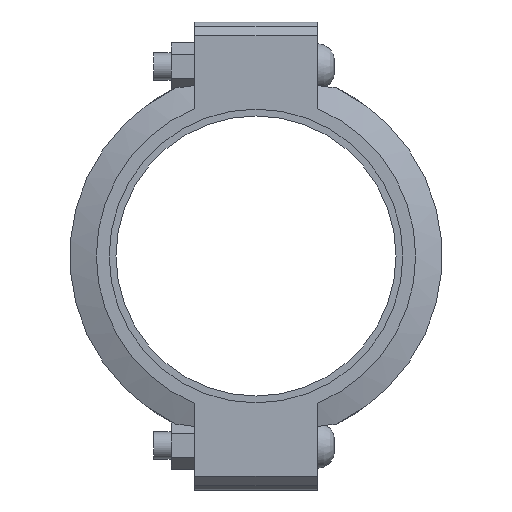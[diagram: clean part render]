
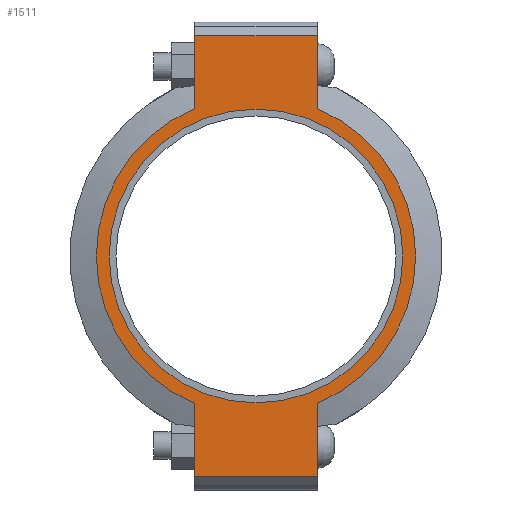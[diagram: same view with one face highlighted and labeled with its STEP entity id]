
A CAD part, left-side view. The second image highlights one B-rep face of the part: STEP entity #1511.
In plain terms, the highlighted planar face has unit normal (-1, 0, 0) as drawn and (0, 0, 1) by its records, which use the part's own axes.
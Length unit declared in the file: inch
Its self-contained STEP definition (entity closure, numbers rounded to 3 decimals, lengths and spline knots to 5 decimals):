
#138=LINE('',#2575,#225);
#149=LINE('',#2626,#236);
#155=LINE('',#2652,#242);
#157=LINE('',#2655,#244);
#158=LINE('',#2660,#245);
#159=LINE('',#2661,#246);
#225=VECTOR('',#2085,0.3937);
#236=VECTOR('',#2116,0.3937);
#242=VECTOR('',#2134,0.3937);
#244=VECTOR('',#2138,0.3937);
#245=VECTOR('',#2143,0.3937);
#246=VECTOR('',#2144,0.3937);
#304=FACE_BOUND('',#463,.T.);
#364=FACE_OUTER_BOUND('',#462,.T.);
#462=EDGE_LOOP('',(#1200,#1201,#1202,#1203,#1204,#1205,#1206,#1207));
#463=EDGE_LOOP('',(#1208));
#568=CIRCLE('',#1756,5.845);
#569=CIRCLE('',#1757,5.845);
#570=CIRCLE('',#1758,5.375);
#677=VERTEX_POINT('',#2572);
#678=VERTEX_POINT('',#2574);
#695=VERTEX_POINT('',#2621);
#696=VERTEX_POINT('',#2625);
#703=VERTEX_POINT('',#2647);
#704=VERTEX_POINT('',#2651);
#705=VERTEX_POINT('',#2657);
#706=VERTEX_POINT('',#2659);
#707=VERTEX_POINT('',#2663);
#847=EDGE_CURVE('',#678,#677,#138,.T.);
#868=EDGE_CURVE('',#696,#695,#149,.T.);
#879=EDGE_CURVE('',#704,#703,#155,.T.);
#881=EDGE_CURVE('',#704,#677,#157,.T.);
#882=EDGE_CURVE('',#703,#705,#568,.T.);
#883=EDGE_CURVE('',#705,#706,#158,.T.);
#884=EDGE_CURVE('',#696,#706,#159,.T.);
#885=EDGE_CURVE('',#695,#678,#569,.T.);
#886=EDGE_CURVE('',#707,#707,#570,.T.);
#1200=ORIENTED_EDGE('',*,*,#881,.F.);
#1201=ORIENTED_EDGE('',*,*,#879,.T.);
#1202=ORIENTED_EDGE('',*,*,#882,.T.);
#1203=ORIENTED_EDGE('',*,*,#883,.T.);
#1204=ORIENTED_EDGE('',*,*,#884,.F.);
#1205=ORIENTED_EDGE('',*,*,#868,.T.);
#1206=ORIENTED_EDGE('',*,*,#885,.T.);
#1207=ORIENTED_EDGE('',*,*,#847,.T.);
#1208=ORIENTED_EDGE('',*,*,#886,.T.);
#1363=PLANE('',#1755);
#1511=ADVANCED_FACE('',(#364,#304),#1363,.T.);
#1755=AXIS2_PLACEMENT_3D('',#2656,#2139,#2140);
#1756=AXIS2_PLACEMENT_3D('',#2658,#2141,#2142);
#1757=AXIS2_PLACEMENT_3D('',#2662,#2145,#2146);
#1758=AXIS2_PLACEMENT_3D('',#2664,#2147,#2148);
#2085=DIRECTION('',(-1.,0.,0.));
#2116=DIRECTION('',(-1.,0.,0.));
#2134=DIRECTION('',(1.,0.,0.));
#2138=DIRECTION('',(0.,1.,0.));
#2139=DIRECTION('center_axis',(0.,0.,1.));
#2140=DIRECTION('ref_axis',(1.,0.,0.));
#2141=DIRECTION('center_axis',(0.,0.,1.));
#2142=DIRECTION('ref_axis',(-1.,0.,0.));
#2143=DIRECTION('',(1.,0.,0.));
#2144=DIRECTION('',(0.,-1.,0.));
#2145=DIRECTION('center_axis',(0.,0.,1.));
#2146=DIRECTION('ref_axis',(-1.,0.,0.));
#2147=DIRECTION('center_axis',(0.,0.,-1.));
#2148=DIRECTION('ref_axis',(-1.,0.,0.));
#2572=CARTESIAN_POINT('',(-8.065,2.25,1.315));
#2574=CARTESIAN_POINT('',(-5.39458,2.25,1.315));
#2575=CARTESIAN_POINT('',(8.565,2.25,1.315));
#2621=CARTESIAN_POINT('',(5.39458,2.25,1.315));
#2625=CARTESIAN_POINT('',(8.065,2.25,1.315));
#2626=CARTESIAN_POINT('',(8.565,2.25,1.315));
#2647=CARTESIAN_POINT('',(-5.39458,-2.25,1.315));
#2651=CARTESIAN_POINT('',(-8.065,-2.25,1.315));
#2652=CARTESIAN_POINT('',(-8.565,-2.25,1.315));
#2655=CARTESIAN_POINT('',(-8.065,1.125,1.315));
#2656=CARTESIAN_POINT('Origin',(0.,0.,
1.315));
#2657=CARTESIAN_POINT('',(5.39458,-2.25,1.315));
#2658=CARTESIAN_POINT('Origin',(0.,0.,1.315));
#2659=CARTESIAN_POINT('',(8.065,-2.25,1.315));
#2660=CARTESIAN_POINT('',(-8.565,-2.25,1.315));
#2661=CARTESIAN_POINT('',(8.065,-1.125,1.315));
#2662=CARTESIAN_POINT('Origin',(0.,0.,1.315));
#2663=CARTESIAN_POINT('',(5.375,0.,1.315));
#2664=CARTESIAN_POINT('Origin',(0.,0.,1.315));
